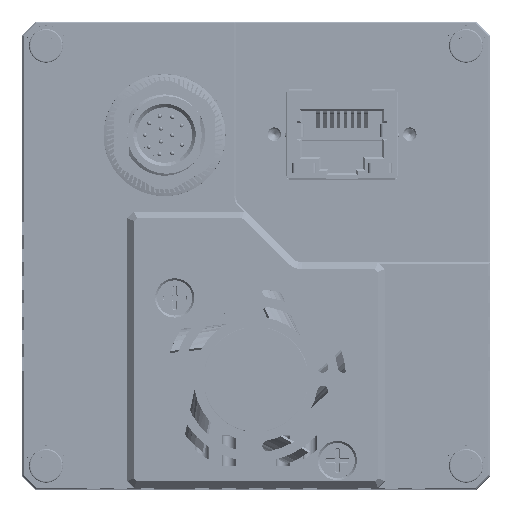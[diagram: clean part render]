
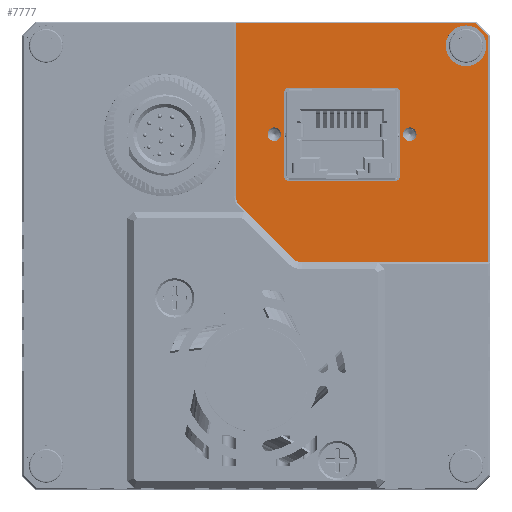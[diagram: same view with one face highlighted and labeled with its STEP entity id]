
A CAD part, top view. The second image highlights one B-rep face of the part: STEP entity #7777.
In plain terms, the highlighted planar face has unit normal (0, 0, 1).
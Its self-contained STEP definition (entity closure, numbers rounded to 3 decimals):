
#1964=PLANE('',#50749);
#7777=ADVANCED_FACE('',(#18789,#18790,#18791,#18792,#18793),#1964,.F.);
#11852=LINE('',#117206,#16330);
#11853=LINE('',#117212,#16331);
#11854=LINE('',#117217,#16332);
#11855=LINE('',#117221,#16333);
#11856=LINE('',#117225,#16334);
#11857=LINE('',#117230,#16335);
#11858=LINE('',#117233,#16336);
#11859=LINE('',#117235,#16337);
#11860=LINE('',#117239,#16338);
#11861=LINE('',#117242,#16339);
#16330=VECTOR('',#59815,1.);
#16331=VECTOR('',#59822,1.);
#16332=VECTOR('',#59825,1.);
#16333=VECTOR('',#59828,1.);
#16334=VECTOR('',#59831,1.);
#16335=VECTOR('',#59836,1.);
#16336=VECTOR('',#59837,1.);
#16337=VECTOR('',#59838,1.);
#16338=VECTOR('',#59841,1.);
#16339=VECTOR('',#59844,1.);
#18789=FACE_BOUND('',#20686,.T.);
#18790=FACE_BOUND('',#20687,.T.);
#18791=FACE_BOUND('',#20688,.T.);
#18792=FACE_BOUND('',#20689,.T.);
#18793=FACE_BOUND('',#20690,.T.);
#20686=EDGE_LOOP('',(#29583));
#20687=EDGE_LOOP('',(#29584));
#20688=EDGE_LOOP('',(#29585,#29586,#29587,#29588,#29589,#29590,#29591,#29592));
#20689=EDGE_LOOP('',(#29593));
#20690=EDGE_LOOP('',(#29594,#29595,#29596,#29597,#29598,#29599,#29600,#29601));
#29583=ORIENTED_EDGE('',*,*,#43780,.T.);
#29584=ORIENTED_EDGE('',*,*,#43781,.T.);
#29585=ORIENTED_EDGE('',*,*,#43782,.F.);
#29586=ORIENTED_EDGE('',*,*,#43783,.T.);
#29587=ORIENTED_EDGE('',*,*,#43784,.F.);
#29588=ORIENTED_EDGE('',*,*,#43785,.T.);
#29589=ORIENTED_EDGE('',*,*,#43786,.F.);
#29590=ORIENTED_EDGE('',*,*,#43787,.T.);
#29591=ORIENTED_EDGE('',*,*,#43788,.F.);
#29592=ORIENTED_EDGE('',*,*,#43789,.T.);
#29593=ORIENTED_EDGE('',*,*,#43790,.T.);
#29594=ORIENTED_EDGE('',*,*,#43791,.T.);
#29595=ORIENTED_EDGE('',*,*,#43792,.T.);
#29596=ORIENTED_EDGE('',*,*,#43793,.F.);
#29597=ORIENTED_EDGE('',*,*,#43794,.T.);
#29598=ORIENTED_EDGE('',*,*,#43795,.T.);
#29599=ORIENTED_EDGE('',*,*,#43796,.T.);
#29600=ORIENTED_EDGE('',*,*,#43779,.F.);
#29601=ORIENTED_EDGE('',*,*,#43797,.T.);
#38063=VERTEX_POINT('',#117198);
#38067=VERTEX_POINT('',#117205);
#38068=VERTEX_POINT('',#117209);
#38069=VERTEX_POINT('',#117211);
#38070=VERTEX_POINT('',#117213);
#38071=VERTEX_POINT('',#117214);
#38072=VERTEX_POINT('',#117216);
#38073=VERTEX_POINT('',#117218);
#38074=VERTEX_POINT('',#117220);
#38075=VERTEX_POINT('',#117222);
#38076=VERTEX_POINT('',#117224);
#38077=VERTEX_POINT('',#117226);
#38078=VERTEX_POINT('',#117229);
#38079=VERTEX_POINT('',#117231);
#38080=VERTEX_POINT('',#117232);
#38081=VERTEX_POINT('',#117234);
#38082=VERTEX_POINT('',#117236);
#38083=VERTEX_POINT('',#117238);
#38084=VERTEX_POINT('',#117240);
#43779=EDGE_CURVE('',#38067,#38063,#11852,.T.);
#43780=EDGE_CURVE('',#38068,#38068,#47776,.T.);
#43781=EDGE_CURVE('',#38069,#38069,#47777,.T.);
#43782=EDGE_CURVE('',#38070,#38071,#11853,.T.);
#43783=EDGE_CURVE('',#38070,#38072,#47778,.T.);
#43784=EDGE_CURVE('',#38073,#38072,#11854,.T.);
#43785=EDGE_CURVE('',#38073,#38074,#47779,.T.);
#43786=EDGE_CURVE('',#38075,#38074,#11855,.T.);
#43787=EDGE_CURVE('',#38075,#38076,#47780,.T.);
#43788=EDGE_CURVE('',#38077,#38076,#11856,.T.);
#43789=EDGE_CURVE('',#38077,#38071,#47781,.T.);
#43790=EDGE_CURVE('',#38078,#38078,#47782,.T.);
#43791=EDGE_CURVE('',#38079,#38080,#11857,.T.);
#43792=EDGE_CURVE('',#38080,#38081,#11858,.T.);
#43793=EDGE_CURVE('',#38082,#38081,#11859,.T.);
#43794=EDGE_CURVE('',#38082,#38083,#47783,.T.);
#43795=EDGE_CURVE('',#38083,#38084,#11860,.T.);
#43796=EDGE_CURVE('',#38084,#38063,#47784,.T.);
#43797=EDGE_CURVE('',#38067,#38079,#11861,.T.);
#47776=CIRCLE('',#50740,1.);
#47777=CIRCLE('',#50741,1.);
#47778=CIRCLE('',#50742,0.5);
#47779=CIRCLE('',#50743,0.5);
#47780=CIRCLE('',#50744,0.5);
#47781=CIRCLE('',#50745,0.5);
#47782=CIRCLE('',#50746,3.);
#47783=CIRCLE('',#50747,2.);
#47784=CIRCLE('',#50748,2.);
#50740=AXIS2_PLACEMENT_3D('',#117208,#59818,#59819);
#50741=AXIS2_PLACEMENT_3D('',#117210,#59820,#59821);
#50742=AXIS2_PLACEMENT_3D('',#117215,#59823,#59824);
#50743=AXIS2_PLACEMENT_3D('',#117219,#59826,#59827);
#50744=AXIS2_PLACEMENT_3D('',#117223,#59829,#59830);
#50745=AXIS2_PLACEMENT_3D('',#117227,#59832,#59833);
#50746=AXIS2_PLACEMENT_3D('',#117228,#59834,#59835);
#50747=AXIS2_PLACEMENT_3D('',#117237,#59839,#59840);
#50748=AXIS2_PLACEMENT_3D('',#117241,#59842,#59843);
#50749=AXIS2_PLACEMENT_3D('',#117243,#59845,#59846);
#59815=DIRECTION('',(-1.,0.,0.));
#59818=DIRECTION('',(0.,0.,-1.));
#59819=DIRECTION('',(-1.,0.,0.));
#59820=DIRECTION('',(0.,0.,-1.));
#59821=DIRECTION('',(-1.,0.,0.));
#59822=DIRECTION('',(0.,1.,0.));
#59823=DIRECTION('',(0.,0.,-1.));
#59824=DIRECTION('',(-1.,0.,0.));
#59825=DIRECTION('',(1.,0.,0.));
#59826=DIRECTION('',(0.,0.,-1.));
#59827=DIRECTION('',(-1.,0.,0.));
#59828=DIRECTION('',(0.,-1.,0.));
#59829=DIRECTION('',(0.,0.,-1.));
#59830=DIRECTION('',(-1.,0.,0.));
#59831=DIRECTION('',(-1.,0.,0.));
#59832=DIRECTION('',(0.,0.,-1.));
#59833=DIRECTION('',(-1.,0.,0.));
#59834=DIRECTION('',(0.,0.,-1.));
#59835=DIRECTION('',(-1.,0.,0.));
#59836=DIRECTION('',(-0.707,0.707,0.));
#59837=DIRECTION('',(-1.,0.,0.));
#59838=DIRECTION('',(0.,1.,0.));
#59839=DIRECTION('',(0.,0.,1.));
#59840=DIRECTION('',(-1.,0.,0.));
#59841=DIRECTION('',(0.707,-0.707,0.));
#59842=DIRECTION('',(0.,0.,1.));
#59843=DIRECTION('',(-1.,0.,0.));
#59844=DIRECTION('',(0.,1.,0.));
#59845=DIRECTION('',(0.,0.,-1.));
#59846=DIRECTION('',(1.,0.,0.));
#117198=CARTESIAN_POINT('',(36.828,29.,40.3));
#117205=CARTESIAN_POINT('',(64.3,29.,40.3));
#117206=CARTESIAN_POINT('',(-2.5,29.,40.3));
#117208=CARTESIAN_POINT('',(32.7,47.95,40.3));
#117209=CARTESIAN_POINT('',(31.7,47.95,40.3));
#117210=CARTESIAN_POINT('',(52.7,47.95,40.3));
#117211=CARTESIAN_POINT('',(51.7,47.95,40.3));
#117212=CARTESIAN_POINT('',(51.2,40.8,40.3));
#117213=CARTESIAN_POINT('',(51.2,41.6,40.3));
#117214=CARTESIAN_POINT('',(51.2,54.3,40.3));
#117215=CARTESIAN_POINT('',(50.7,41.6,40.3));
#117216=CARTESIAN_POINT('',(50.7,41.1,40.3));
#117217=CARTESIAN_POINT('',(34.2,41.1,40.3));
#117218=CARTESIAN_POINT('',(34.7,41.1,40.3));
#117219=CARTESIAN_POINT('',(34.7,41.6,40.3));
#117220=CARTESIAN_POINT('',(34.2,41.6,40.3));
#117221=CARTESIAN_POINT('',(34.2,54.8,40.3));
#117222=CARTESIAN_POINT('',(34.2,54.3,40.3));
#117223=CARTESIAN_POINT('',(34.7,54.3,40.3));
#117224=CARTESIAN_POINT('',(34.7,54.8,40.3));
#117225=CARTESIAN_POINT('',(51.2,54.8,40.3));
#117226=CARTESIAN_POINT('',(50.7,54.8,40.3));
#117227=CARTESIAN_POINT('',(50.7,54.3,40.3));
#117228=CARTESIAN_POINT('',(61.,61.,40.3));
#117229=CARTESIAN_POINT('',(58.,61.,40.3));
#117230=CARTESIAN_POINT('',(62.359,64.359,40.3));
#117231=CARTESIAN_POINT('',(64.3,62.417,40.3));
#117232=CARTESIAN_POINT('',(62.417,64.3,40.3));
#117233=CARTESIAN_POINT('',(60.,64.3,40.3));
#117234=CARTESIAN_POINT('',(27.,64.3,40.3));
#117235=CARTESIAN_POINT('',(27.,0.,40.3));
#117236=CARTESIAN_POINT('',(27.,38.828,40.3));
#117237=CARTESIAN_POINT('',(29.,38.828,40.3));
#117238=CARTESIAN_POINT('',(27.586,37.414,40.3));
#117239=CARTESIAN_POINT('',(30.,35.,40.3));
#117240=CARTESIAN_POINT('',(35.414,29.586,40.3));
#117241=CARTESIAN_POINT('',(36.828,31.,40.3));
#117242=CARTESIAN_POINT('',(64.3,0.,40.3));
#117243=CARTESIAN_POINT('',(60.,0.,40.3));
